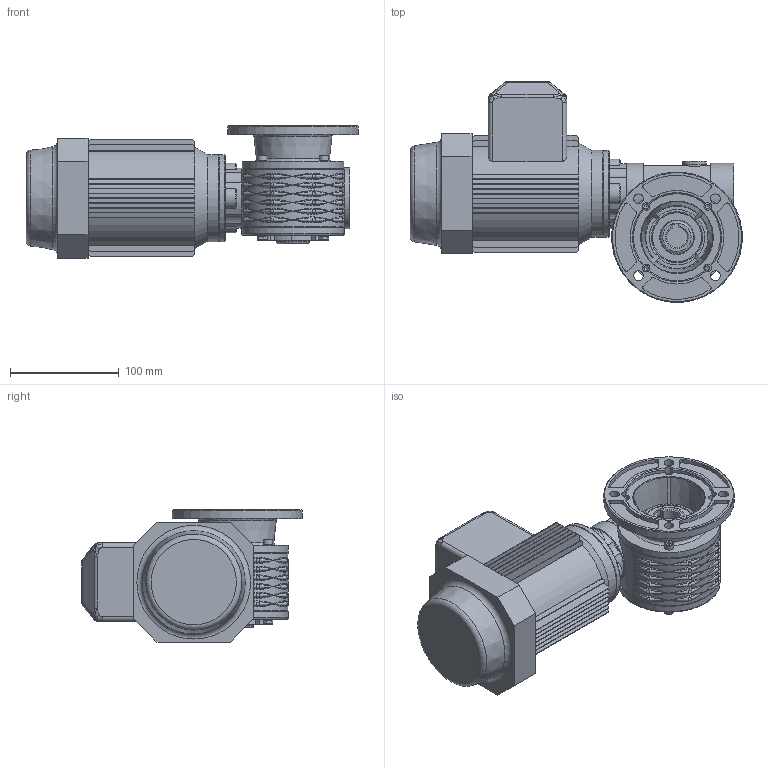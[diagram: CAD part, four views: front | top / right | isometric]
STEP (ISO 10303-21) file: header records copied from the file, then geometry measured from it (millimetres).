
FILE_DESCRIPTION((''),'2;1');
FILE_NAME('Y:\Archivi Inventor\Prog_01\GRAND_05\Figurini\MRV05 VECCHIO\56 B14\MRV05_PAM56B14_F1.stp','2014-01-14T11:00:40',('tech3'),(''),'Autodesk Inventor 2013','Autodesk Inventor 2013','');
FILE_SCHEMA(('AUTOMOTIVE_DESIGN { 1 0 10303 214 1 1 1 1 }'));
Length unit declared in the file: millimetre
Products named in the file (19): Assieme1; V05_PRIMARIO; 0100501-A1xfigurini; 0100502; 0100529-A0; RCA_35x7; 0100528-A0; PARAOLIO 20x30x8; Guarnizione 3_8 GAS; UNI 6592 5.3 x 10; PARAOLIO 30x45x8; DIN EN 24 017  M5 x 16; DIN EN ISO 4762 M5 x 30; Tappo 3_8 GAS_esagn_incsst; Corona MRV05 F=19 x figurini; UNI 5931  M 5 x  16; 0100503_fig; 0100506; motori B14 56
Assembly tree (29 placements, depth 3):
  Assieme1
    V05_PRIMARIO
      0100501-A1xfigurini
      0100502
      0100529-A0  x2
      RCA_35x7
      0100528-A0
      PARAOLIO 20x30x8
      Guarnizione 3_8 GAS
      UNI 6592 5.3 x 10
      PARAOLIO 30x45x8  x2
      DIN EN 24 017  M5 x 16  x4
      DIN EN ISO 4762 M5 x 30  x4
      Tappo 3_8 GAS_esagn_incsst
      Corona MRV05 F=19 x figurini
      UNI 5931  M 5 x  16  x4
      0100503_fig
    0100506
    motori B14 56
Bounding box: 305.12 x 202.77 x 121.33 mm (x, y, z)
Volume: 2281291.2 mm3; surface area: 331307.9 mm2
Topology: 28 solids, 28 shells, 1238 faces, 3049 edges, 1954 vertices
Faces by surface type: plane 595, cylinder 345, torus 109, cone 93, bspline 92, sphere 4
Full cylindrical faces by diameter (mm): 4.134 x16, 5 x12, 5.3 x1, 5.5 x24, 5.75 x4, 6.88 x4, 7 x4, 8 x1, 8.5 x12, 9 x5, 10 x1, 14.95 x1, 16.3 x1, 16.5 x1, 22 x2, 23.105 x1, 28 x1, 30 x4, 30.8 x1, 34.105 x2, 35 x5, 42 x2, 45 x4, 50 x1, 55 x1, 56 x2, 63 x2, 70 x6, 80 x2, 93.5 x2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
Entity records: 60634 total; most frequent: CARTESIAN_POINT 34754, DIRECTION 5225, ORIENTED_EDGE 4910, EDGE_CURVE 2455, AXIS2_PLACEMENT_3D 2025, VERTEX_POINT 1632, EDGE_LOOP 1381, VECTOR 1175
